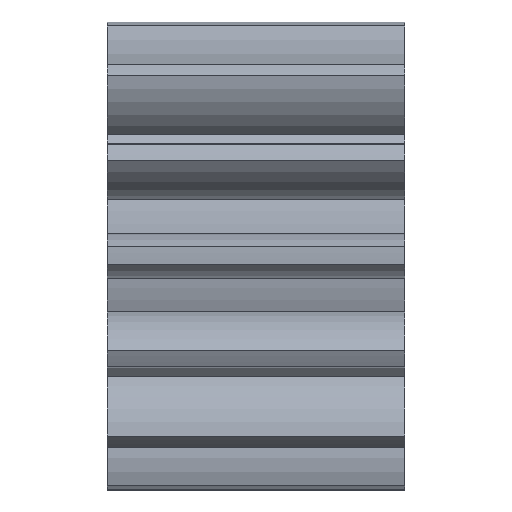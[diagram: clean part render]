
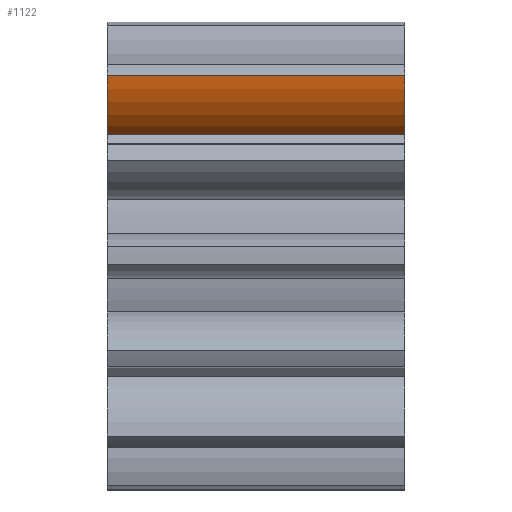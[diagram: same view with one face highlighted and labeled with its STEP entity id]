
A CAD part, top view. The second image highlights one B-rep face of the part: STEP entity #1122.
In plain terms, the highlighted cylindrical face has radius 3.556 mm (diameter 7.112 mm), a partial arc.
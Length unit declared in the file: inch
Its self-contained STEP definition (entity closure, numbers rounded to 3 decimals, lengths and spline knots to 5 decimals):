
#33=FACE_OUTER_BOUND('',#96,.T.);
#96=EDGE_LOOP('',(#794,#795,#796,#797));
#171=LINE('',#1967,#237);
#172=LINE('',#1969,#238);
#237=VECTOR('',#1546,39.37008);
#238=VECTOR('',#1547,39.37008);
#301=CIRCLE('',#1215,0.14);
#347=CIRCLE('',#1266,0.14);
#425=VERTEX_POINT('',#1854);
#426=VERTEX_POINT('',#1856);
#474=VERTEX_POINT('',#1966);
#475=VERTEX_POINT('',#1968);
#547=EDGE_CURVE('',#426,#425,#301,.T.);
#604=EDGE_CURVE('',#474,#426,#171,.T.);
#605=EDGE_CURVE('',#425,#475,#172,.T.);
#606=EDGE_CURVE('',#475,#474,#347,.T.);
#794=ORIENTED_EDGE('',*,*,#604,.T.);
#795=ORIENTED_EDGE('',*,*,#547,.T.);
#796=ORIENTED_EDGE('',*,*,#605,.T.);
#797=ORIENTED_EDGE('',*,*,#606,.T.);
#1064=CYLINDRICAL_SURFACE('',#1265,0.14);
#1122=ADVANCED_FACE('',(#33),#1064,.T.);
#1215=AXIS2_PLACEMENT_3D('',#1857,#1433,#1434);
#1265=AXIS2_PLACEMENT_3D('',#1965,#1544,#1545);
#1266=AXIS2_PLACEMENT_3D('',#1970,#1548,#1549);
#1433=DIRECTION('center_axis',(-1.,0.,0.));
#1434=DIRECTION('ref_axis',(0.,0.,1.));
#1544=DIRECTION('center_axis',(-1.,0.,0.));
#1545=DIRECTION('ref_axis',(0.,0.,1.));
#1546=DIRECTION('',(1.,0.,0.));
#1547=DIRECTION('',(-1.,0.,0.));
#1548=DIRECTION('center_axis',(1.,0.,0.));
#1549=DIRECTION('ref_axis',(0.,0.,1.));
#1854=CARTESIAN_POINT('',(0.5,0.30307,0.26105));
#1856=CARTESIAN_POINT('',(0.5,0.20313,0.20416));
#1857=CARTESIAN_POINT('Origin',(0.5,0.31625,0.12167));
#1965=CARTESIAN_POINT('Origin',(0.5,0.31625,0.12167));
#1966=CARTESIAN_POINT('',(0.,0.20313,0.20416));
#1967=CARTESIAN_POINT('',(0.5,0.20313,0.20416));
#1968=CARTESIAN_POINT('',(0.,0.30307,0.26105));
#1969=CARTESIAN_POINT('',(0.5,0.30307,0.26105));
#1970=CARTESIAN_POINT('Origin',(0.,0.31625,0.12167));
